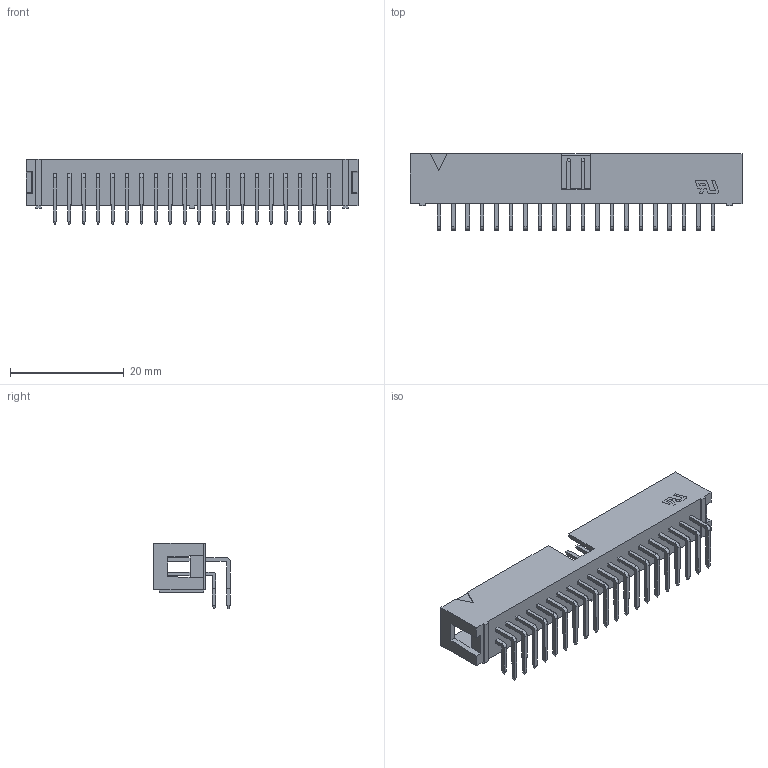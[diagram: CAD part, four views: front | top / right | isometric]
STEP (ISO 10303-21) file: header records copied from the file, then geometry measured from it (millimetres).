
FILE_DESCRIPTION (( 'STEP AP214' ), '1' );
FILE_NAME ('3012-40C00RBA.STEP', '2019-11-14T05:13:35', ( 'ADMIN' ), ( '' ), 'SwSTEP 2.0', 'SolidWorks 2011', '' );
FILE_SCHEMA (( 'AUTOMOTIVE_DESIGN' ));
Length unit declared in the file: millimetre
Products named in the file (1): 3012-40C00RBA
Bounding box: 58.46 x 13.5 x 11.52 mm (x, y, z)
Volume: 1979.6 mm3; surface area: 4396.6 mm2
Topology: 1 solids, 1 shells, 1125 faces, 2883 edges, 1838 vertices
Faces by surface type: plane 1041, cylinder 84
Entity records: 45606 total; most frequent: CARTESIAN_POINT 5847, ORIENTED_EDGE 5766, DIRECTION 5303, EDGE_CURVE 2883, VECTOR 2715, LINE 2715, VERTEX_POINT 1838, AXIS2_PLACEMENT_3D 1294
